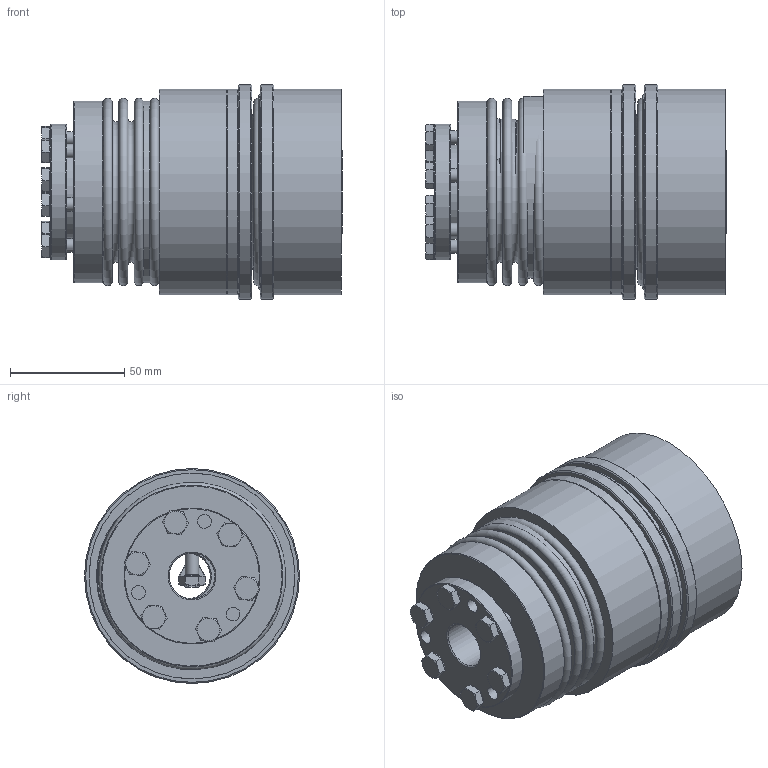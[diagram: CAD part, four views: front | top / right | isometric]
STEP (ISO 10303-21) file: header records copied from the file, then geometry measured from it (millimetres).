
FILE_DESCRIPTION( ( 'Unknown' ), '1' );
FILE_NAME( 'C:/Dokumente und Einstellungen/SKarpstein/Desktop/Korrigierte 3D Modelle/KBK-B-II/KBK-BII-80-108.stp', 'Unknown', ( 'Unknown' ), ( 'Unknown' ), 'XStep 1.0', 'Unknown', ' ' );
FILE_SCHEMA( ( 'automotive_design' ) );
Length unit declared in the file: millimetre
Products named in the file (12): Assem1; Assem2; Hex Screw GradeC_ISO_ISO 4018 - M6 x 25-WN_4; BA80-150_Standard_4; KB80-150_Standard_4; KBK L-I-80 Grundkörper_0; Konusbuchse 80_0; Stellring 80; Druckring 80; din_en_24017_m6x25; BK80-150_Standard_3; Flansch BI150
Bounding box: 131.6 x 94 x 94 mm (x, y, z)
Volume: 826727.3 mm3; surface area: 346038.6 mm2
Topology: 38 solids, 38 shells, 889 faces, 1872 edges, 1165 vertices
Faces by surface type: plane 416, cone 239, cylinder 192, torus 42
Full cylindrical faces by diameter (mm): 3.242 x6, 4.917 x18, 5 x8, 5.2 x6, 6 x47, 6.6 x30, 8.8 x7, 10 x13, 20 x3, 30 x4, 37.5 x2, 40 x4, 41 x5, 48 x2, 52 x2, 58 x3, 59.5 x5, 62 x4, 70 x2, 70.7 x4, 71.9 x4, 79.5 x3, 85 x2, 87 x2, 90 x4, 94 x2
Entity records: 6425 total; most frequent: CARTESIAN_POINT 1352, DIRECTION 1066, ORIENTED_EDGE 684, AXIS2_PLACEMENT_3D 502, EDGE_LOOP 472, EDGE_CURVE 342, FACE_OUTER_BOUND 326, VERTEX_POINT 288
